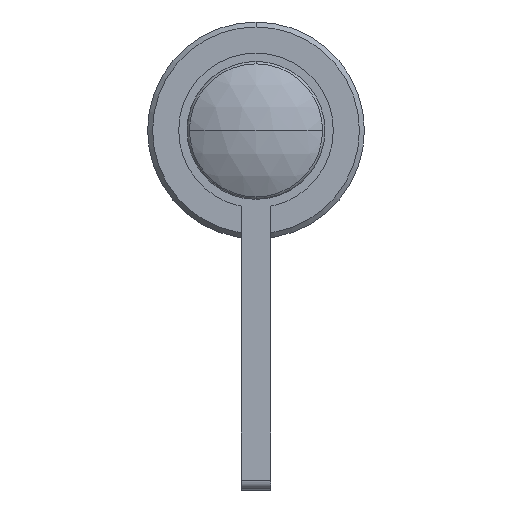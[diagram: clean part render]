
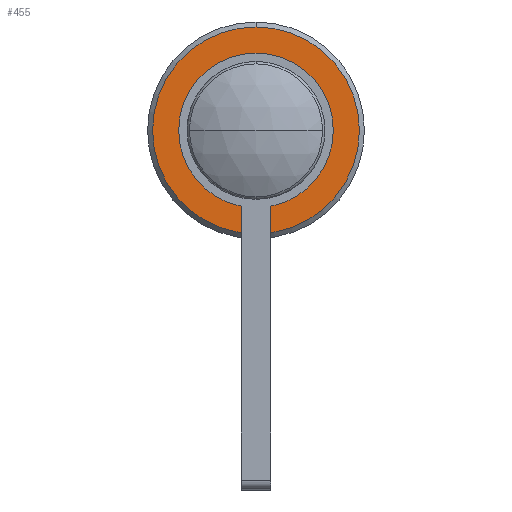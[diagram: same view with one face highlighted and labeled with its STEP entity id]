
A CAD part, front view. The second image highlights one B-rep face of the part: STEP entity #455.
In plain terms, the highlighted planar face has unit normal (0, -1, 0).
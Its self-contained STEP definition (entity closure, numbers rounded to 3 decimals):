
#23 = CARTESIAN_POINT ( 'NONE',  ( 0., 34.5, 6.5 ) ) ;
#288 = DIRECTION ( 'NONE',  ( 0., 0., 1. ) ) ;
#403 = CIRCLE ( 'NONE', #3047, 10.5 ) ;
#405 = CIRCLE ( 'NONE', #3171, 6.5 ) ;
#455 = ADVANCED_FACE ( 'NONE', ( #3418, #1984 ), #3142, .F. ) ;
#474 = CARTESIAN_POINT ( 'NONE',  ( 0., 34.5, -6.5 ) ) ;
#563 = CARTESIAN_POINT ( 'NONE',  ( 11., 34.5, 0. ) ) ;
#602 = EDGE_CURVE ( 'NONE', #2701, #2956, #1291, .T. ) ;
#609 = VERTEX_POINT ( 'NONE', #23 ) ;
#710 = CARTESIAN_POINT ( 'NONE',  ( 0., 34.5, -10.5 ) ) ;
#878 = ORIENTED_EDGE ( 'NONE', *, *, #1957, .T. ) ;
#917 = DIRECTION ( 'NONE',  ( 0., 0., 1. ) ) ;
#1170 = DIRECTION ( 'NONE',  ( 0., 0., 1. ) ) ;
#1231 = AXIS2_PLACEMENT_3D ( 'NONE', #2075, #2318, #1170 ) ;
#1291 = CIRCLE ( 'NONE', #1885, 10.5 ) ;
#1611 = EDGE_CURVE ( 'NONE', #609, #1671, #3286, .T. ) ;
#1671 = VERTEX_POINT ( 'NONE', #474 ) ;
#1675 = CARTESIAN_POINT ( 'NONE',  ( 0., 34.5, 0. ) ) ;
#1719 = EDGE_CURVE ( 'NONE', #2956, #2701, #403, .T. ) ;
#1760 = CARTESIAN_POINT ( 'NONE',  ( 0., 34.5, 0. ) ) ;
#1853 = CARTESIAN_POINT ( 'NONE',  ( 0., 34.5, 0. ) ) ;
#1885 = AXIS2_PLACEMENT_3D ( 'NONE', #1760, #3259, #917 ) ;
#1957 = EDGE_CURVE ( 'NONE', #1671, #609, #405, .T. ) ;
#1984 = FACE_BOUND ( 'NONE', #3557, .T. ) ;
#2075 = CARTESIAN_POINT ( 'NONE',  ( 0., 34.5, 0. ) ) ;
#2120 = ORIENTED_EDGE ( 'NONE', *, *, #1611, .T. ) ;
#2298 = AXIS2_PLACEMENT_3D ( 'NONE', #563, #2853, #288 ) ;
#2318 = DIRECTION ( 'NONE',  ( 0., 1., 0. ) ) ;
#2536 = DIRECTION ( 'NONE',  ( 0., 1., 0. ) ) ;
#2634 = ORIENTED_EDGE ( 'NONE', *, *, #602, .T. ) ;
#2635 = EDGE_LOOP ( 'NONE', ( #2634, #3191 ) ) ;
#2701 = VERTEX_POINT ( 'NONE', #3360 ) ;
#2853 = DIRECTION ( 'NONE',  ( 0., 1., 0. ) ) ;
#2956 = VERTEX_POINT ( 'NONE', #710 ) ;
#3008 = DIRECTION ( 'NONE',  ( 0., 0., 1. ) ) ;
#3047 = AXIS2_PLACEMENT_3D ( 'NONE', #1853, #3619, #3008 ) ;
#3089 = DIRECTION ( 'NONE',  ( 0., 0., 1. ) ) ;
#3142 = PLANE ( 'NONE',  #2298 ) ;
#3171 = AXIS2_PLACEMENT_3D ( 'NONE', #1675, #2536, #3089 ) ;
#3191 = ORIENTED_EDGE ( 'NONE', *, *, #1719, .T. ) ;
#3259 = DIRECTION ( 'NONE',  ( 0., -1., 0. ) ) ;
#3286 = CIRCLE ( 'NONE', #1231, 6.5 ) ;
#3360 = CARTESIAN_POINT ( 'NONE',  ( 0., 34.5, 10.5 ) ) ;
#3418 = FACE_OUTER_BOUND ( 'NONE', #2635, .T. ) ;
#3557 = EDGE_LOOP ( 'NONE', ( #2120, #878 ) ) ;
#3619 = DIRECTION ( 'NONE',  ( 0., -1., 0. ) ) ;
